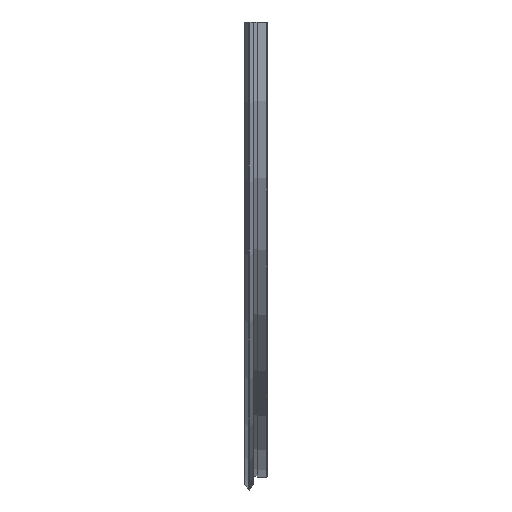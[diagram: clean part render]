
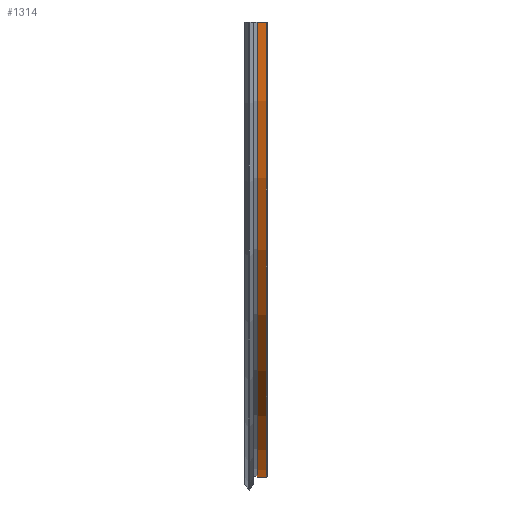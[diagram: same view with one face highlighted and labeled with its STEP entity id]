
A CAD part, left-side view. The second image highlights one B-rep face of the part: STEP entity #1314.
In plain terms, the highlighted cylindrical face has radius 318.75 mm (diameter 637.5 mm), a partial arc.
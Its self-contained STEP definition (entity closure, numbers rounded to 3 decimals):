
#1314 = ADVANCED_FACE( '', ( #3843 ), #3844, .T. );
#3843 = FACE_OUTER_BOUND( '', #6372, .T. );
#3844 = CYLINDRICAL_SURFACE( '', #6373, 318.75 );
#6372 = EDGE_LOOP( '', ( #17404, #17405, #17406, #17407 ) );
#6373 = AXIS2_PLACEMENT_3D( '', #17408, #17409, #17410 );
#17404 = ORIENTED_EDGE( '', *, *, #19812, .F. );
#17405 = ORIENTED_EDGE( '', *, *, #20311, .T. );
#17406 = ORIENTED_EDGE( '', *, *, #21069, .T. );
#17407 = ORIENTED_EDGE( '', *, *, #19805, .T. );
#17408 = CARTESIAN_POINT( '', ( 0., 0., 0. ) );
#17409 = DIRECTION( '', ( 0., 1., 0. ) );
#17410 = DIRECTION( '', ( 0., 0., -1. ) );
#19805 = EDGE_CURVE( '', #25859, #25857, #25860, .T. );
#19812 = EDGE_CURVE( '', #25872, #25857, #25873, .T. );
#20311 = EDGE_CURVE( '', #25872, #26388, #26390, .F. );
#21069 = EDGE_CURVE( '', #26388, #25859, #27179, .T. );
#25857 = VERTEX_POINT( '', #35316 );
#25859 = VERTEX_POINT( '', #35321 );
#25860 = LINE( '', #35322, #35323 );
#25872 = VERTEX_POINT( '', #35353 );
#25873 = CIRCLE( '', #35354, 318.75 );
#26388 = VERTEX_POINT( '', #35892 );
#26390 = LINE( '', #35895, #35896 );
#27179 = CIRCLE( '', #36685, 318.75 );
#35316 = CARTESIAN_POINT( '', ( 318.744, 0.5, -2. ) );
#35321 = CARTESIAN_POINT( '', ( 318.744, 7., -2. ) );
#35322 = CARTESIAN_POINT( '', ( 318.744, 0., -2. ) );
#35323 = VECTOR( '', #38601, 1000. );
#35353 = CARTESIAN_POINT( '', ( -318.744, 0.5, -2. ) );
#35354 = AXIS2_PLACEMENT_3D( '', #38605, #38606, #38607 );
#35892 = CARTESIAN_POINT( '', ( -318.744, 7., -2. ) );
#35895 = CARTESIAN_POINT( '', ( -318.744, 0., -2. ) );
#35896 = VECTOR( '', #40078, 1000. );
#36685 = AXIS2_PLACEMENT_3D( '', #42347, #42348, #42349 );
#38601 = DIRECTION( '', ( 0., -1., 0. ) );
#38605 = CARTESIAN_POINT( '', ( 0., 0.5, 0. ) );
#38606 = DIRECTION( '', ( 0., -1., 0. ) );
#38607 = DIRECTION( '', ( 0., 0., -1. ) );
#40078 = DIRECTION( '', ( 0., -1., 0. ) );
#42347 = CARTESIAN_POINT( '', ( 0., 7., 0. ) );
#42348 = DIRECTION( '', ( 0., -1., 0. ) );
#42349 = DIRECTION( '', ( 0., 0., -1. ) );
